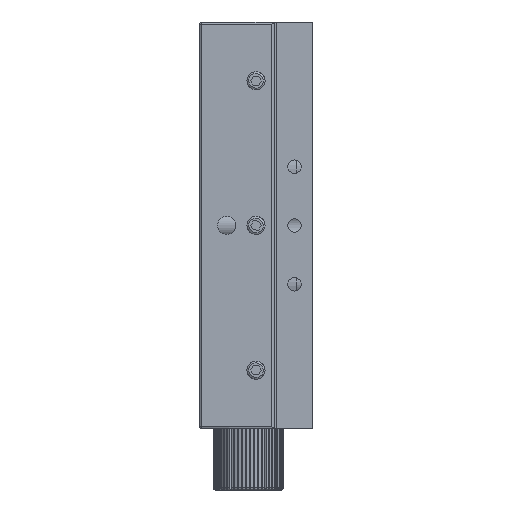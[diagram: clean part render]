
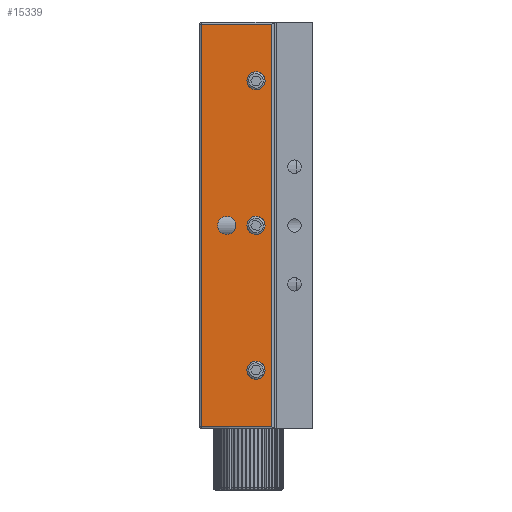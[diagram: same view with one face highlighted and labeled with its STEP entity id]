
A CAD part, left-side view. The second image highlights one B-rep face of the part: STEP entity #15339.
In plain terms, the highlighted planar face has unit normal (-1, 0, 0).
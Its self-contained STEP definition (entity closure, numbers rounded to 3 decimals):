
#1727 = EDGE_CURVE ( 'NONE', #13192, #13194, #16270, .T. ) ;
#1732 = EDGE_CURVE ( 'NONE', #13186, #13192, #16277, .T. ) ;
#1734 = EDGE_CURVE ( 'NONE', #18156, #18156, #16283, .T. ) ;
#1735 = EDGE_CURVE ( 'NONE', #13194, #13189, #16281, .T. ) ;
#1736 = EDGE_CURVE ( 'NONE', #13189, #13186, #16282, .T. ) ;
#1868 = AXIS2_PLACEMENT_3D ( 'NONE', #6543, #6544, #6545 ) ;
#3204 = CARTESIAN_POINT ( 'NONE',  ( -73.878, -39.479, -6.403 ) ) ;
#4517 = CIRCLE ( 'NONE', #18379, 2. ) ;
#4521 = CIRCLE ( 'NONE', #18381, 2. ) ;
#4550 = CIRCLE ( 'NONE', #18387, 2. ) ;
#5305 = CARTESIAN_POINT ( 'NONE',  ( -73.878, -23.479, 82.597 ) ) ;
#5310 = CARTESIAN_POINT ( 'NONE',  ( -73.878, -38.979, 82.597 ) ) ;
#5316 = CARTESIAN_POINT ( 'NONE',  ( -73.878, -23.479, -6.403 ) ) ;
#5320 = CARTESIAN_POINT ( 'NONE',  ( -73.878, -38.979, -6.403 ) ) ;
#6181 = CARTESIAN_POINT ( 'NONE',  ( -73.878, -35.479, 38.097 ) ) ;
#6182 = DIRECTION ( 'NONE',  ( -1., 0., 0. ) ) ;
#6183 = DIRECTION ( 'NONE',  ( 0., 0., 1. ) ) ;
#6189 = CARTESIAN_POINT ( 'NONE',  ( -73.878, -35.479, 70.097 ) ) ;
#6190 = DIRECTION ( 'NONE',  ( -1., 0., 0. ) ) ;
#6191 = DIRECTION ( 'NONE',  ( 0., 0., 1. ) ) ;
#6230 = CARTESIAN_POINT ( 'NONE',  ( -73.878, -35.479, 6.097 ) ) ;
#6231 = DIRECTION ( 'NONE',  ( -1., 0., 0. ) ) ;
#6232 = DIRECTION ( 'NONE',  ( 0., 0., 1. ) ) ;
#6523 = DIRECTION ( 'NONE',  ( 0., -1., 0. ) ) ;
#6524 = CARTESIAN_POINT ( 'NONE',  ( -73.878, -38.979, -6.903 ) ) ;
#6536 = CARTESIAN_POINT ( 'NONE',  ( -73.878, -23.479, -6.903 ) ) ;
#6537 = DIRECTION ( 'NONE',  ( 0., 0., -1. ) ) ;
#6538 = CARTESIAN_POINT ( 'NONE',  ( -73.878, -22.979, 82.597 ) ) ;
#6543 = CARTESIAN_POINT ( 'NONE',  ( -73.878, -28.979, 38.097 ) ) ;
#6544 = DIRECTION ( 'NONE',  ( -1., 0., 0. ) ) ;
#6545 = DIRECTION ( 'NONE',  ( 0., 0., 1. ) ) ;
#6546 = DIRECTION ( 'NONE',  ( 0., 0., 1. ) ) ;
#6548 = DIRECTION ( 'NONE',  ( 0., 1., 0. ) ) ;
#8311 = FACE_BOUND ( 'NONE', #13241, .T. ) ;
#8313 = FACE_BOUND ( 'NONE', #15126, .T. ) ;
#8317 = FACE_BOUND ( 'NONE', #13001, .T. ) ;
#8320 = FACE_BOUND ( 'NONE', #14965, .T. ) ;
#8322 = FACE_OUTER_BOUND ( 'NONE', #15799, .T. ) ;
#8966 = DIRECTION ( 'NONE',  ( 1., 0., 0. ) ) ;
#8967 = PLANE ( 'NONE',  #18473 ) ;
#8969 = CARTESIAN_POINT ( 'NONE',  ( -73.878, -39.479, -6.903 ) ) ;
#8971 = DIRECTION ( 'NONE',  ( 0., 0., -1. ) ) ;
#10253 = CARTESIAN_POINT ( 'NONE',  ( -73.878, -28.979, 40.097 ) ) ;
#10351 = CARTESIAN_POINT ( 'NONE',  ( -73.878, -35.479, 40.097 ) ) ;
#10353 = CARTESIAN_POINT ( 'NONE',  ( -73.878, -35.479, 72.097 ) ) ;
#10359 = CARTESIAN_POINT ( 'NONE',  ( -73.878, -35.479, 8.097 ) ) ;
#13001 = EDGE_LOOP ( 'NONE', ( #13435 ) ) ;
#13186 = VERTEX_POINT ( 'NONE', #5305 ) ;
#13189 = VERTEX_POINT ( 'NONE', #5310 ) ;
#13192 = VERTEX_POINT ( 'NONE', #5316 ) ;
#13194 = VERTEX_POINT ( 'NONE', #5320 ) ;
#13241 = EDGE_LOOP ( 'NONE', ( #13441 ) ) ;
#13435 = ORIENTED_EDGE ( 'NONE', *, *, #1734, .F. ) ;
#13436 = ORIENTED_EDGE ( 'NONE', *, *, #1732, .T. ) ;
#13437 = ORIENTED_EDGE ( 'NONE', *, *, #1727, .T. ) ;
#13438 = ORIENTED_EDGE ( 'NONE', *, *, #1735, .T. ) ;
#13439 = ORIENTED_EDGE ( 'NONE', *, *, #1736, .T. ) ;
#13440 = ORIENTED_EDGE ( 'NONE', *, *, #13732, .F. ) ;
#13441 = ORIENTED_EDGE ( 'NONE', *, *, #13729, .F. ) ;
#13442 = ORIENTED_EDGE ( 'NONE', *, *, #13750, .F. ) ;
#13729 = EDGE_CURVE ( 'NONE', #18254, #18254, #4517, .T. ) ;
#13732 = EDGE_CURVE ( 'NONE', #18256, #18256, #4521, .T. ) ;
#13750 = EDGE_CURVE ( 'NONE', #18262, #18262, #4550, .T. ) ;
#14965 = EDGE_LOOP ( 'NONE', ( #13442 ) ) ;
#15126 = EDGE_LOOP ( 'NONE', ( #13440 ) ) ;
#15339 = ADVANCED_FACE ( 'NONE', ( #8317, #8322, #8313, #8311, #8320 ), #8967, .F. ) ;
#15799 = EDGE_LOOP ( 'NONE', ( #13436, #13437, #13438, #13439 ) ) ;
#16270 = LINE ( 'NONE', #3204, #16272 ) ;
#16272 = VECTOR ( 'NONE', #6523, 1000. ) ;
#16277 = LINE ( 'NONE', #6536, #16280 ) ;
#16280 = VECTOR ( 'NONE', #6537, 1000. ) ;
#16281 = LINE ( 'NONE', #6524, #16285 ) ;
#16282 = LINE ( 'NONE', #6538, #16284 ) ;
#16283 = CIRCLE ( 'NONE', #1868, 2. ) ;
#16284 = VECTOR ( 'NONE', #6548, 1000. ) ;
#16285 = VECTOR ( 'NONE', #6546, 1000. ) ;
#18156 = VERTEX_POINT ( 'NONE', #10253 ) ;
#18254 = VERTEX_POINT ( 'NONE', #10351 ) ;
#18256 = VERTEX_POINT ( 'NONE', #10353 ) ;
#18262 = VERTEX_POINT ( 'NONE', #10359 ) ;
#18379 = AXIS2_PLACEMENT_3D ( 'NONE', #6181, #6182, #6183 ) ;
#18381 = AXIS2_PLACEMENT_3D ( 'NONE', #6189, #6190, #6191 ) ;
#18387 = AXIS2_PLACEMENT_3D ( 'NONE', #6230, #6231, #6232 ) ;
#18473 = AXIS2_PLACEMENT_3D ( 'NONE', #8969, #8966, #8971 ) ;
